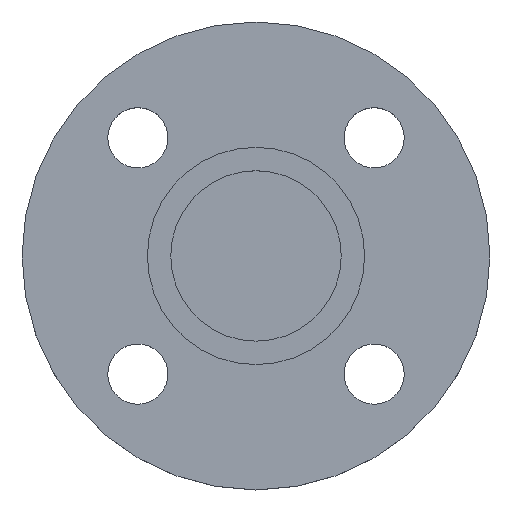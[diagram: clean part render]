
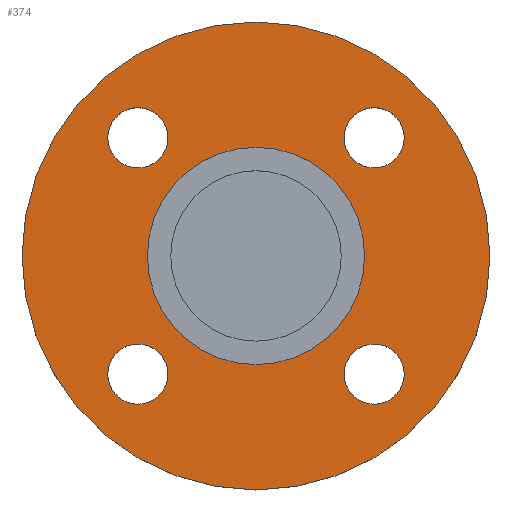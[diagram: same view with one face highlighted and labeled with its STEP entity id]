
A CAD part, top view. The second image highlights one B-rep face of the part: STEP entity #374.
In plain terms, the highlighted planar face has unit normal (0, 0, 1).
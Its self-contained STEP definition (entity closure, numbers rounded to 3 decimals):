
#10 = CARTESIAN_POINT ( 'NONE',  ( -44.355, 35.355, -4.5 ) ) ;
#15 = AXIS2_PLACEMENT_3D ( 'NONE', #779, #215, #462 ) ;
#39 = FACE_BOUND ( 'NONE', #237, .T. ) ;
#54 = DIRECTION ( 'NONE',  ( 0., 0., -1. ) ) ;
#60 = CARTESIAN_POINT ( 'NONE',  ( 0., 0., -4.5 ) ) ;
#63 = VERTEX_POINT ( 'NONE', #452 ) ;
#67 = EDGE_CURVE ( 'NONE', #209, #364, #809, .T. ) ;
#68 = DIRECTION ( 'NONE',  ( 0., 0., -1. ) ) ;
#73 = DIRECTION ( 'NONE',  ( 0., 0., -1. ) ) ;
#85 = AXIS2_PLACEMENT_3D ( 'NONE', #200, #446, #695 ) ;
#90 = DIRECTION ( 'NONE',  ( 0., 0., -1. ) ) ;
#91 = VERTEX_POINT ( 'NONE', #277 ) ;
#97 = CARTESIAN_POINT ( 'NONE',  ( -35.355, -35.355, -4.5 ) ) ;
#102 = VERTEX_POINT ( 'NONE', #465 ) ;
#103 = EDGE_CURVE ( 'NONE', #272, #329, #500, .T. ) ;
#114 = EDGE_CURVE ( 'NONE', #253, #91, #606, .T. ) ;
#115 = ORIENTED_EDGE ( 'NONE', *, *, #719, .T. ) ;
#137 = CIRCLE ( 'NONE', #600, 9. ) ;
#138 = DIRECTION ( 'NONE',  ( 0., 0., -1. ) ) ;
#143 = DIRECTION ( 'NONE',  ( 1., 0., 0. ) ) ;
#145 = EDGE_LOOP ( 'NONE', ( #392, #371 ) ) ;
#153 = DIRECTION ( 'NONE',  ( 0., 0., -1. ) ) ;
#154 = AXIS2_PLACEMENT_3D ( 'NONE', #714, #221, #467 ) ;
#164 = ORIENTED_EDGE ( 'NONE', *, *, #393, .T. ) ;
#178 = CARTESIAN_POINT ( 'NONE',  ( 32.5, 0., -4.5 ) ) ;
#183 = EDGE_LOOP ( 'NONE', ( #115, #599 ) ) ;
#184 = CIRCLE ( 'NONE', #631, 9. ) ;
#192 = CIRCLE ( 'NONE', #649, 32.5 ) ;
#196 = ORIENTED_EDGE ( 'NONE', *, *, #657, .T. ) ;
#200 = CARTESIAN_POINT ( 'NONE',  ( -35.355, 35.355, -4.5 ) ) ;
#209 = VERTEX_POINT ( 'NONE', #243 ) ;
#214 = AXIS2_PLACEMENT_3D ( 'NONE', #701, #138, #390 ) ;
#215 = DIRECTION ( 'NONE',  ( 0., 0., -1. ) ) ;
#221 = DIRECTION ( 'NONE',  ( 0., 0., -1. ) ) ;
#237 = EDGE_LOOP ( 'NONE', ( #318, #164 ) ) ;
#243 = CARTESIAN_POINT ( 'NONE',  ( 26.355, 35.355, -4.5 ) ) ;
#244 = FACE_BOUND ( 'NONE', #578, .T. ) ;
#246 = AXIS2_PLACEMENT_3D ( 'NONE', #640, #73, #337 ) ;
#247 = CIRCLE ( 'NONE', #687, 32.5 ) ;
#253 = VERTEX_POINT ( 'NONE', #345 ) ;
#256 = AXIS2_PLACEMENT_3D ( 'NONE', #716, #153, #404 ) ;
#272 = VERTEX_POINT ( 'NONE', #529 ) ;
#277 = CARTESIAN_POINT ( 'NONE',  ( -70., 0., -4.5 ) ) ;
#278 = CIRCLE ( 'NONE', #15, 9. ) ;
#304 = FACE_BOUND ( 'NONE', #145, .T. ) ;
#318 = ORIENTED_EDGE ( 'NONE', *, *, #474, .T. ) ;
#321 = DIRECTION ( 'NONE',  ( -1., 0., 0. ) ) ;
#325 = CIRCLE ( 'NONE', #797, 9. ) ;
#326 = DIRECTION ( 'NONE',  ( 0., 0., -1. ) ) ;
#329 = VERTEX_POINT ( 'NONE', #542 ) ;
#331 = DIRECTION ( 'NONE',  ( 1., 0., 0. ) ) ;
#337 = DIRECTION ( 'NONE',  ( 1., 0., 0. ) ) ;
#345 = CARTESIAN_POINT ( 'NONE',  ( 70., 0., -4.5 ) ) ;
#348 = DIRECTION ( 'NONE',  ( 1., 0., 0. ) ) ;
#352 = ORIENTED_EDGE ( 'NONE', *, *, #114, .F. ) ;
#354 = DIRECTION ( 'NONE',  ( 0., 0., -1. ) ) ;
#364 = VERTEX_POINT ( 'NONE', #736 ) ;
#371 = ORIENTED_EDGE ( 'NONE', *, *, #103, .T. ) ;
#373 = AXIS2_PLACEMENT_3D ( 'NONE', #178, #426, #672 ) ;
#374 = ADVANCED_FACE ( 'NONE', ( #39, #304, #546, #808, #244, #488 ), #742, .T. ) ;
#380 = EDGE_LOOP ( 'NONE', ( #352, #558 ) ) ;
#389 = VERTEX_POINT ( 'NONE', #396 ) ;
#390 = DIRECTION ( 'NONE',  ( -1., 0., 0. ) ) ;
#392 = ORIENTED_EDGE ( 'NONE', *, *, #505, .T. ) ;
#393 = EDGE_CURVE ( 'NONE', #389, #102, #576, .T. ) ;
#396 = CARTESIAN_POINT ( 'NONE',  ( 26.355, -35.355, -4.5 ) ) ;
#404 = DIRECTION ( 'NONE',  ( -1., 0., 0. ) ) ;
#406 = VERTEX_POINT ( 'NONE', #10 ) ;
#426 = DIRECTION ( 'NONE',  ( 0., 0., 1. ) ) ;
#436 = AXIS2_PLACEMENT_3D ( 'NONE', #634, #68, #331 ) ;
#444 = CARTESIAN_POINT ( 'NONE',  ( -26.355, 35.355, -4.5 ) ) ;
#446 = DIRECTION ( 'NONE',  ( 0., 0., -1. ) ) ;
#452 = CARTESIAN_POINT ( 'NONE',  ( 32.5, 0., -4.5 ) ) ;
#458 = CARTESIAN_POINT ( 'NONE',  ( -35.355, 35.355, -4.5 ) ) ;
#462 = DIRECTION ( 'NONE',  ( 1., 0., 0. ) ) ;
#465 = CARTESIAN_POINT ( 'NONE',  ( 44.355, -35.355, -4.5 ) ) ;
#467 = DIRECTION ( 'NONE',  ( 1., 0., 0. ) ) ;
#468 = ORIENTED_EDGE ( 'NONE', *, *, #666, .T. ) ;
#474 = EDGE_CURVE ( 'NONE', #102, #389, #325, .T. ) ;
#477 = EDGE_LOOP ( 'NONE', ( #468, #508 ) ) ;
#479 = CARTESIAN_POINT ( 'NONE',  ( -32.5, 0., -4.5 ) ) ;
#488 = FACE_OUTER_BOUND ( 'NONE', #380, .T. ) ;
#500 = CIRCLE ( 'NONE', #154, 9. ) ;
#505 = EDGE_CURVE ( 'NONE', #329, #272, #184, .T. ) ;
#508 = ORIENTED_EDGE ( 'NONE', *, *, #586, .T. ) ;
#529 = CARTESIAN_POINT ( 'NONE',  ( -44.355, -35.355, -4.5 ) ) ;
#542 = CARTESIAN_POINT ( 'NONE',  ( -26.355, -35.355, -4.5 ) ) ;
#546 = FACE_BOUND ( 'NONE', #477, .T. ) ;
#555 = CIRCLE ( 'NONE', #214, 70. ) ;
#558 = ORIENTED_EDGE ( 'NONE', *, *, #681, .F. ) ;
#560 = ORIENTED_EDGE ( 'NONE', *, *, #674, .T. ) ;
#565 = DIRECTION ( 'NONE',  ( -1., 0., 0. ) ) ;
#576 = CIRCLE ( 'NONE', #246, 9. ) ;
#578 = EDGE_LOOP ( 'NONE', ( #560, #196 ) ) ;
#586 = EDGE_CURVE ( 'NONE', #406, #798, #137, .T. ) ;
#594 = DIRECTION ( 'NONE',  ( 1., 0., 0. ) ) ;
#599 = ORIENTED_EDGE ( 'NONE', *, *, #67, .T. ) ;
#600 = AXIS2_PLACEMENT_3D ( 'NONE', #458, #706, #143 ) ;
#606 = CIRCLE ( 'NONE', #256, 70. ) ;
#625 = CARTESIAN_POINT ( 'NONE',  ( 0., 0., -4.5 ) ) ;
#631 = AXIS2_PLACEMENT_3D ( 'NONE', #97, #354, #594 ) ;
#634 = CARTESIAN_POINT ( 'NONE',  ( 35.355, 35.355, -4.5 ) ) ;
#640 = CARTESIAN_POINT ( 'NONE',  ( 35.355, -35.355, -4.5 ) ) ;
#646 = VERTEX_POINT ( 'NONE', #479 ) ;
#649 = AXIS2_PLACEMENT_3D ( 'NONE', #60, #326, #565 ) ;
#657 = EDGE_CURVE ( 'NONE', #63, #646, #247, .T. ) ;
#666 = EDGE_CURVE ( 'NONE', #798, #406, #812, .T. ) ;
#672 = DIRECTION ( 'NONE',  ( 1., 0., 0. ) ) ;
#674 = EDGE_CURVE ( 'NONE', #646, #63, #192, .T. ) ;
#681 = EDGE_CURVE ( 'NONE', #91, #253, #555, .T. ) ;
#687 = AXIS2_PLACEMENT_3D ( 'NONE', #625, #54, #321 ) ;
#695 = DIRECTION ( 'NONE',  ( 1., 0., 0. ) ) ;
#701 = CARTESIAN_POINT ( 'NONE',  ( 0., 0., -4.5 ) ) ;
#706 = DIRECTION ( 'NONE',  ( 0., 0., -1. ) ) ;
#714 = CARTESIAN_POINT ( 'NONE',  ( -35.355, -35.355, -4.5 ) ) ;
#716 = CARTESIAN_POINT ( 'NONE',  ( 0., 0., -4.5 ) ) ;
#719 = EDGE_CURVE ( 'NONE', #364, #209, #278, .T. ) ;
#720 = CARTESIAN_POINT ( 'NONE',  ( 35.355, -35.355, -4.5 ) ) ;
#736 = CARTESIAN_POINT ( 'NONE',  ( 44.355, 35.355, -4.5 ) ) ;
#742 = PLANE ( 'NONE',  #373 ) ;
#779 = CARTESIAN_POINT ( 'NONE',  ( 35.355, 35.355, -4.5 ) ) ;
#797 = AXIS2_PLACEMENT_3D ( 'NONE', #720, #90, #348 ) ;
#798 = VERTEX_POINT ( 'NONE', #444 ) ;
#808 = FACE_BOUND ( 'NONE', #183, .T. ) ;
#809 = CIRCLE ( 'NONE', #436, 9. ) ;
#812 = CIRCLE ( 'NONE', #85, 9. ) ;
